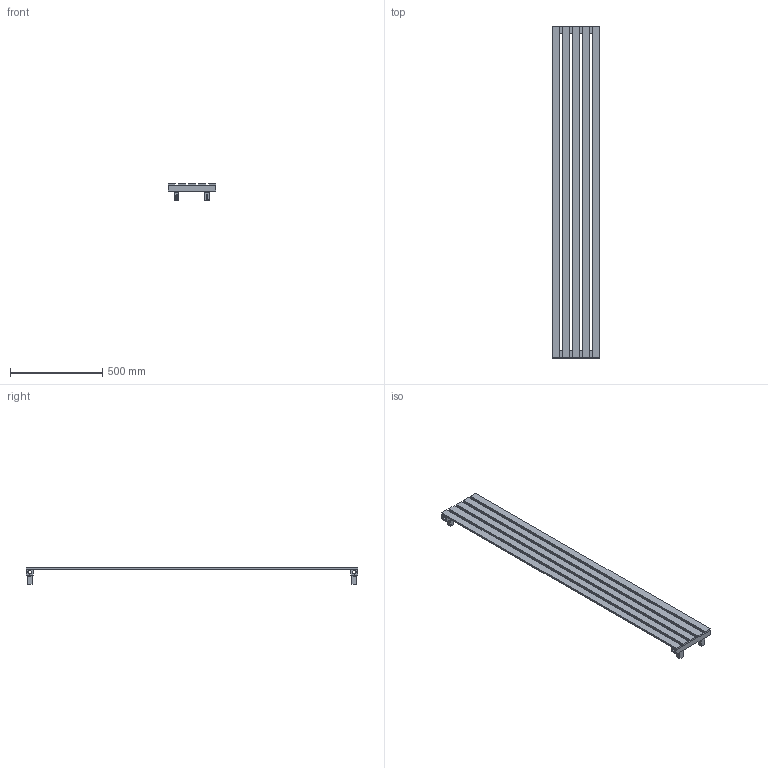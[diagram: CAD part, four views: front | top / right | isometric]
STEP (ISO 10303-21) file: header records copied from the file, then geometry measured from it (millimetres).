
FILE_DESCRIPTION (( 'STEP AP214' ), '1' );
FILE_NAME ('SARP.STEP', '2020-08-25T13:28:29', ( 'termosan' ), ( '' ), 'SwSTEP 2.0', 'SolidWorks 2009', '' );
FILE_SCHEMA (( 'AUTOMOTIVE_DESIGN' ));
Length unit declared in the file: millimetre
Products named in the file (4): SARP; P. ZAGA GÖVDE; PASLANMAZ ZAGA ASKI P嵱
Assembly tree (9 placements, depth 2):
  SARP
    PASLANMAZ ZAGA ASKI P嵱  x4
    SARP
    P. ZAGA GÖVDE  x4
Bounding box: 260 x 1800 x 90.5 mm (x, y, z)
Volume: 4173042.4 mm3; surface area: 1054542.5 mm2
Topology: 15 solids, 15 shells, 362 faces, 756 edges, 504 vertices
Faces by surface type: cylinder 196, plane 166
Entity records: 4165 total; most frequent: DIRECTION 729, CARTESIAN_POINT 714, ORIENTED_EDGE 594, EDGE_CURVE 297, AXIS2_PLACEMENT_3D 281, VERTEX_POINT 198, EDGE_LOOP 177, LINE 167
